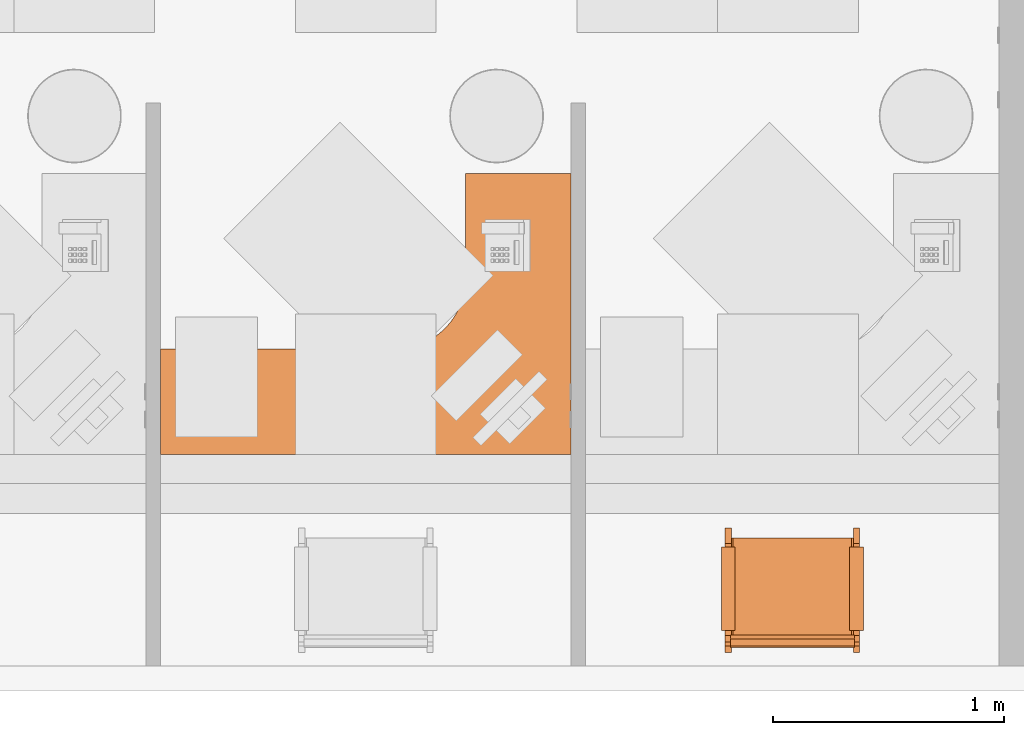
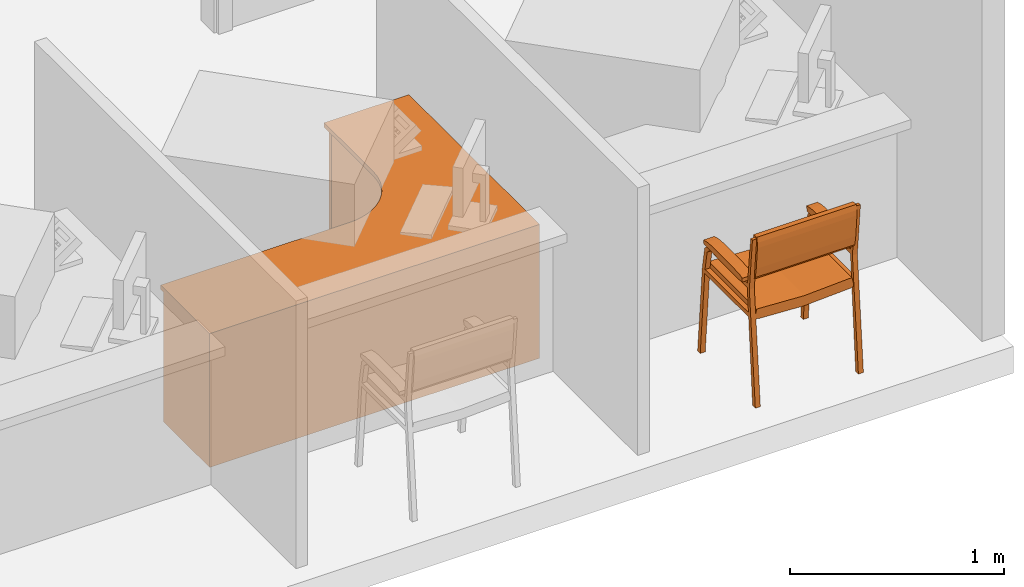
# One storey, part 9 of 20: 2 proxies.
"""IFC2X3 building model written with IfcOpenShell, lengths in feet."""

import ifcopenshell
import ifcopenshell.guid

model = None  # the IFC model being written
_history = None  # IfcOwnerHistory: only IFC2X3 demands one
_inside = {}  # id of a spatial element -> (the spatial element, [elements in it])
_under = {}  # id of a project, library or spatial element -> (it, [spatial elements below it])
_declared = {}  # id of a project -> (the project, [libraries it declares])
_typed = {}  # id of a type object -> (the type object, [elements of that type])
_made_of = {}  # id of a material, layer set ... -> (it, [elements and type objects made of it])


def new_model(schema):
    """Start an empty IFC model of exactly this schema.

    Asked for "IFC4X3", IfcOpenShell would pick the latest addendum, in which some entities
    have other attributes; the version numbers below select the first issue.
    IFC2X3 requires an IfcOwnerHistory on every rooted entity: one is made here for all.
    """
    global model, _history
    if schema == "IFC4X3":
        model = ifcopenshell.file(schema_version=(4, 3, 0, 0))
    else:
        model = ifcopenshell.file(schema=schema)
    _inside.clear()
    _under.clear()
    _declared.clear()
    _typed.clear()
    _made_of.clear()
    _history = None
    if model.schema == "IFC2X3":
        org = make("IfcOrganization", Name="unknown")
        user = make(
            "IfcPersonAndOrganization",
            ThePerson=make("IfcPerson", FamilyName="unknown"),
            TheOrganization=org,
        )
        app = make(
            "IfcApplication",
            ApplicationDeveloper=org,
            Version="unknown",
            ApplicationFullName="unknown",
            ApplicationIdentifier="unknown",
        )
        _history = make(
            "IfcOwnerHistory",
            OwningUser=user,
            OwningApplication=app,
            ChangeAction="ADDED",
            CreationDate=0,
        )
    return model


def make(cls, **values):
    """One entity of the class cls with the attributes given. An attribute that is None is left unset."""
    return model.create_entity(
        cls, **{name: value for name, value in values.items() if value is not None}
    )


def entity(cls, *values):
    """Any entity or typed value of the class cls, its attributes in the order of the schema. None: left unset."""
    e = model.create_entity(cls)
    for i, value in enumerate(values):
        if value is not None:
            e[i] = value
    return e


def rooted(cls, **values):
    """An entity with a GlobalId (a new one), such as an element, a storey or a relation."""
    return make(cls, GlobalId=ifcopenshell.guid.new(), OwnerHistory=_history, **values)


def si_unit(unit_type, name, prefix=None):
    """IfcSIUnit, for example si_unit("LENGTHUNIT", "METRE", prefix="MILLI")."""
    return make("IfcSIUnit", UnitType=unit_type, Prefix=prefix, Name=name)


def converted_unit(unit_type, name, factor, base, dimensions=None, offset=None):
    """IfcConversionBasedUnit, such as the inch: factor (a typed value) times the base unit."""
    return make(
        "IfcConversionBasedUnit"
        if offset is None
        else "IfcConversionBasedUnitWithOffset",
        ConversionOffset=offset,
        Dimensions=None
        if dimensions is None
        else entity("IfcDimensionalExponents", *dimensions),
        UnitType=unit_type,
        Name=name,
        ConversionFactor=make(
            "IfcMeasureWithUnit", ValueComponent=factor, UnitComponent=base
        ),
    )


def derived_unit(unit_type, elements):
    """IfcDerivedUnit: a product of units, each with its exponent."""
    return make(
        "IfcDerivedUnit",
        Elements=[
            make("IfcDerivedUnitElement", Unit=unit, Exponent=power)
            for unit, power in elements
        ],
        UnitType=unit_type,
    )


def assignment(units):
    """IfcUnitAssignment: the units of a project."""
    return None if units is None else make("IfcUnitAssignment", Units=units)


def point(xyz):
    """IfcCartesianPoint."""
    return None if xyz is None else make("IfcCartesianPoint", Coordinates=xyz)


def direction(xyz):
    """IfcDirection."""
    return None if xyz is None else make("IfcDirection", DirectionRatios=xyz)


def frame(location, z_axis=None, x_axis=None):
    """IfcAxis2Placement3D, a coordinate frame: its origin and axes. An axis left out is left unset."""
    return make(
        "IfcAxis2Placement3D",
        Location=point(location),
        Axis=direction(z_axis),
        RefDirection=direction(x_axis),
    )


def frame_2d(location, x_axis=None):
    """IfcAxis2Placement2D, a coordinate frame in the plane: its origin and x axis."""
    return make(
        "IfcAxis2Placement2D", Location=point(location), RefDirection=direction(x_axis)
    )


def origin():
    """The frame at (0, 0, 0) with its axes left unset."""
    return frame((0.0, 0.0, 0.0))


def place(relative_to, where):
    """IfcLocalPlacement: puts the frame where relative to a parent placement (None: the world)."""
    return make(
        "IfcLocalPlacement", PlacementRelTo=relative_to, RelativePlacement=where
    )


def context(
    kind, dimensions, precision=None, world=None, true_north=None, identifier=None
):
    """IfcGeometricRepresentationContext, for example the 3D "Model" context."""
    return make(
        "IfcGeometricRepresentationContext",
        ContextIdentifier=identifier,
        ContextType=kind,
        CoordinateSpaceDimension=dimensions,
        Precision=precision,
        WorldCoordinateSystem=world,
        TrueNorth=true_north,
    )


def subcontext(parent, identifier, kind, view, scale=None):
    """IfcGeometricRepresentationSubContext, for example "Body" below "Model"."""
    return make(
        "IfcGeometricRepresentationSubContext",
        ContextIdentifier=identifier,
        ContextType=kind,
        ParentContext=parent,
        TargetScale=scale,
        TargetView=view,
    )


def project(units=None, contexts=None):
    """IfcProject with its units and contexts."""
    return rooted(
        "IfcProject",
        Name="project",
        RepresentationContexts=contexts,
        UnitsInContext=assignment(units),
    )


def spatial(cls, under=None, at=None, **own):
    """A site, building, storey or space (cls), placed at a placement, below another one or the project."""
    s = rooted(cls, ObjectPlacement=at, **own)
    if under is not None:
        _under.setdefault(under.id(), (under, []))[1].append(s)
    return s


def polyline(points):
    """IfcPolyline through the points."""
    return make("IfcPolyline", Points=[point(p) for p in points])


def circle_curve(where, radius):
    """IfcCircle in the frame where."""
    return make("IfcCircle", Position=where, Radius=radius)


def parameter(value):
    """IfcParameterValue: where a trimmed curve begins or ends, as a parameter of its basis curve."""
    return model.create_entity("IfcParameterValue", value)


def trimmed(basis, trim1, trim2, sense, master):
    """IfcTrimmedCurve: the piece of a basis curve between two trims."""
    return make(
        "IfcTrimmedCurve",
        BasisCurve=basis,
        Trim1=trim1,
        Trim2=trim2,
        SenseAgreement=sense,
        MasterRepresentation=master,
    )


def segment(curve, same_sense, transition):
    """IfcCompositeCurveSegment."""
    return make(
        "IfcCompositeCurveSegment",
        Transition=transition,
        SameSense=same_sense,
        ParentCurve=curve,
    )


def composite_curve(segments, self_intersect=None):
    """IfcCompositeCurve: segments joined end to end."""
    return make("IfcCompositeCurve", Segments=segments, SelfIntersect=self_intersect)


def profile(cls, at=None, kind="AREA", **sizes):
    """A parametric profile (cls). Its sizes go by their IFC names, for example OverallWidth=200.0."""
    return make(cls, ProfileType=kind, Position=at, **sizes)


def rectangle(**sizes):
    """IfcRectangleProfileDef."""
    return profile("IfcRectangleProfileDef", **sizes)


def outline(outer, holes=None, kind="AREA"):
    """IfcArbitraryClosedProfileDef: a profile drawn as a closed curve; with holes, ...WithVoids."""
    if holes is None:
        return make("IfcArbitraryClosedProfileDef", ProfileType=kind, OuterCurve=outer)
    return make(
        "IfcArbitraryProfileDefWithVoids",
        ProfileType=kind,
        OuterCurve=outer,
        InnerCurves=holes,
    )


def extrude(swept, where, along, depth):
    """IfcExtrudedAreaSolid: the profile swept, set in the frame where, extruded along a direction by depth."""
    return make(
        "IfcExtrudedAreaSolid",
        SweptArea=swept,
        Position=where,
        ExtrudedDirection=direction(along),
        Depth=depth,
    )


def shape(context_of_items, identifier, shape_type, items):
    """IfcShapeRepresentation: the items that make up one representation, for example the "Body"."""
    return make(
        "IfcShapeRepresentation",
        ContextOfItems=context_of_items,
        RepresentationIdentifier=identifier,
        RepresentationType=shape_type,
        Items=items,
    )


def source(mapping_origin, context_of_items, identifier, shape_type, items):
    """IfcRepresentationMap: a shape defined once, which mapped items show again and again."""
    return make(
        "IfcRepresentationMap",
        MappingOrigin=mapping_origin,
        MappedRepresentation=shape(context_of_items, identifier, shape_type, items),
    )


def transform(
    local_origin,
    x_axis=None,
    y_axis=None,
    z_axis=None,
    scale=None,
    scale2=None,
    scale3=None,
    uniform=True,
):
    """IfcCartesianTransformationOperator3D, or its non-uniform kind. x_axis, y_axis, z_axis: its Axis1, 2, 3."""
    if uniform:
        return make(
            "IfcCartesianTransformationOperator3D",
            Axis1=direction(x_axis),
            Axis2=direction(y_axis),
            LocalOrigin=point(local_origin),
            Scale=scale,
            Axis3=direction(z_axis),
        )
    return make(
        "IfcCartesianTransformationOperator3DnonUniform",
        Axis1=direction(x_axis),
        Axis2=direction(y_axis),
        LocalOrigin=point(local_origin),
        Scale=scale,
        Axis3=direction(z_axis),
        Scale2=scale2,
        Scale3=scale3,
    )


def mapped(mapping_source, mapping_target):
    """IfcMappedItem: shows the shape of a source again, moved by a transform."""
    return make(
        "IfcMappedItem", MappingSource=mapping_source, MappingTarget=mapping_target
    )


def made_of(thing, what):
    """Note that an element or type object is made of a material, layer set ...; save() writes the relation."""
    if what is not None:
        _made_of.setdefault(what.id(), (what, []))[1].append(thing)
    return thing


def type_object(cls, material=None, **own):
    """A type object (cls), such as IfcWallType, which elements share."""
    return made_of(rooted(cls, **own), material)


def type_shapes(of_type, sources):
    """Give a type object the sources (RepresentationMaps) that its elements show as mapped items."""
    of_type.RepresentationMaps = sources


def element(
    cls,
    number,
    at=None,
    inside=None,
    cuts=None,
    type_object=None,
    material=None,
    context=None,
    identifier="Body",
    shape_type=None,
    held_by="IfcProductDefinitionShape",
    body=None,
    shapes=None,
    **own,
):
    """One element of the class cls, such as IfcWall. Its Tag is "e" and its number.

    at: its placement. inside: the storey or other place that contains it. cuts: it is an
    opening in that element (IfcRelVoidsElement). A single representation is given by context,
    identifier, shape_type and body (its items); several are given by shapes. held_by: the class
    of the entity that holds the representations. save() writes the other relations.
    """
    e = rooted(cls, Tag="e%d" % number, ObjectPlacement=at, **own)
    if body is not None:
        shapes = [shape(context, identifier, shape_type, body)]
    if shapes is not None:
        e.Representation = make(held_by, Representations=shapes)
    if inside is not None:
        _inside.setdefault(inside.id(), (inside, []))[1].append(e)
    if cuts is not None:
        rooted(
            "IfcRelVoidsElement", RelatingBuildingElement=cuts, RelatedOpeningElement=e
        )
    if type_object is not None:
        _typed.setdefault(type_object.id(), (type_object, []))[1].append(e)
    return made_of(e, material)


def aggregate(whole, parts):
    """IfcRelAggregates: a whole, such as a stair, and the parts it consists of."""
    return rooted("IfcRelAggregates", RelatingObject=whole, RelatedObjects=parts)


def save(model, path):
    """Write the relations noted so far, then the file.

    IfcRelAggregates (storeys below a building ...), IfcRelContainedInSpatialStructure (elements
    in a storey), IfcRelDefinesByType, IfcRelAssociatesMaterial and IfcRelDeclares: one each for
    every whole, place, type object, material and project.
    """
    for whole, parts in _under.values():
        aggregate(whole, parts)
    for where, things in _inside.values():
        rooted(
            "IfcRelContainedInSpatialStructure",
            RelatedElements=things,
            RelatingStructure=where,
        )
    for kind, things in _typed.values():
        rooted("IfcRelDefinesByType", RelatedObjects=things, RelatingType=kind)
    for what, things in _made_of.values():
        rooted("IfcRelAssociatesMaterial", RelatedObjects=things, RelatingMaterial=what)
    for by, libraries in _declared.values():
        rooted("IfcRelDeclares", RelatingContext=by, RelatedDefinitions=libraries)
    model.write(path)


model = new_model("IFC2X3")

# Units and contexts
model_context = context("Model", 3, precision=0.0001, world=origin(), true_north=direction((6.12303176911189e-17, 1.0)))
body_context = subcontext(model_context, "Body", "Model", "MODEL_VIEW")
ifc_project = project(units=[converted_unit("LENGTHUNIT", "FOOT", entity("IfcRatioMeasure", 0.3048), si_unit("LENGTHUNIT", "METRE"), dimensions=[1, 0, 0, 0, 0, 0, 0]), converted_unit("AREAUNIT", "SQUARE FOOT", entity("IfcRatioMeasure", 0.09290304), si_unit("AREAUNIT", "SQUARE_METRE"), dimensions=[2, 0, 0, 0, 0, 0, 0]), converted_unit("VOLUMEUNIT", "CUBIC FOOT", entity("IfcRatioMeasure", 0.028316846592), si_unit("VOLUMEUNIT", "CUBIC_METRE"), dimensions=[3, 0, 0, 0, 0, 0, 0]), converted_unit("PLANEANGLEUNIT", "DEGREE", entity("IfcRatioMeasure", 0.0174532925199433), si_unit("PLANEANGLEUNIT", "RADIAN"), dimensions=[0, 0, 0, 0, 0, 0, 0]), si_unit("MASSUNIT", "GRAM", prefix="KILO"), derived_unit("MASSDENSITYUNIT", [(si_unit("MASSUNIT", "GRAM", prefix="KILO"), 1), (si_unit("LENGTHUNIT", "METRE"), -3)]), si_unit("TIMEUNIT", "SECOND"), si_unit("FREQUENCYUNIT", "HERTZ"), si_unit("THERMODYNAMICTEMPERATUREUNIT", "DEGREE_CELSIUS"), derived_unit("THERMALTRANSMITTANCEUNIT", [(si_unit("MASSUNIT", "GRAM", prefix="KILO"), 1), (si_unit("THERMODYNAMICTEMPERATUREUNIT", "KELVIN"), -1), (si_unit("TIMEUNIT", "SECOND"), -3)]), derived_unit("VOLUMETRICFLOWRATEUNIT", [(si_unit("LENGTHUNIT", "METRE"), 3), (si_unit("TIMEUNIT", "SECOND"), -1)]), si_unit("ELECTRICCURRENTUNIT", "AMPERE"), si_unit("ELECTRICVOLTAGEUNIT", "VOLT"), si_unit("POWERUNIT", "WATT"), si_unit("FORCEUNIT", "NEWTON"), si_unit("ILLUMINANCEUNIT", "LUX"), si_unit("LUMINOUSFLUXUNIT", "LUMEN"), si_unit("LUMINOUSINTENSITYUNIT", "CANDELA"), derived_unit("USERDEFINED", [(si_unit("MASSUNIT", "GRAM", prefix="KILO"), -1), (si_unit("LENGTHUNIT", "METRE"), -2), (si_unit("TIMEUNIT", "SECOND"), 3), (si_unit("LUMINOUSFLUXUNIT", "LUMEN"), 1)]), derived_unit("LINEARVELOCITYUNIT", [(si_unit("LENGTHUNIT", "METRE"), 1), (si_unit("TIMEUNIT", "SECOND"), -1)]), si_unit("PRESSUREUNIT", "PASCAL"), derived_unit("USERDEFINED", [(si_unit("LENGTHUNIT", "METRE"), -2), (si_unit("MASSUNIT", "GRAM", prefix="KILO"), 1), (si_unit("TIMEUNIT", "SECOND"), -2)])], contexts=[model_context])

# Site, building, storey, space
site_placement = place(None, origin())
site = spatial("IfcSite", under=ifc_project, at=site_placement, Name="Default", CompositionType="ELEMENT")
building_placement = place(site_placement, origin())
building = spatial("IfcBuilding", under=site, at=building_placement, Name="OUTPATIENT / PACT CLINIC (Ch. 265)", CompositionType="ELEMENT")
storey_placement = place(building_placement, origin())
storey = spatial("IfcBuildingStorey", under=building, at=storey_placement, Name="DATUM", CompositionType="ELEMENT", Elevation=0.0)
space_placement = place(storey_placement, origin())
space = spatial("IfcSpace", under=storey, at=space_placement, Name="RCP03", CompositionType="ELEMENT", InteriorOrExteriorSpace="INTERNAL")

# Proxies
building_element_proxy_type_1 = type_object("IfcBuildingElementProxyType", Name="E0130 - Workstation, Documentation, Operating, L-Shaped, 5-10", PredefinedType="NOTDEFINED")
shared_shape_1 = source(origin(), body_context, "Body", "SweptSolid", [
    extrude(rectangle(XDim=0.0292050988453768, YDim=0.833333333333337, at=frame_2d((5.55111512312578e-17, 0.0), x_axis=(1.0, 0.0))), frame((2.75, 0.621546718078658, 0.250000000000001), z_axis=(0.0, 0.0, 1.0), x_axis=(0.0, 1.0, 0.0)), (0.0, 0.0, 1.0), 1.83333333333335),
    extrude(outline(polyline([(-1.20833333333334, -0.583333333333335), (1.20833333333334, -0.583333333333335), (1.20833333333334, 0.583333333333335), (-1.20833333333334, 0.583333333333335), (-1.20833333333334, -0.583333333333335)]), holes=[polyline([(-0.875000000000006, -0.416666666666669), (-0.875000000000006, 0.416666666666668), (0.958333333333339, 0.416666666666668), (0.958333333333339, -0.416666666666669), (-0.875000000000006, -0.416666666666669)])]), frame((2.74999999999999, 0.583333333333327, 1.20833333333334), z_axis=(0.0, 1.0, 0.0), x_axis=(0.0, 0.0, -1.0)), (0.0, 0.0, 1.0), 0.0833333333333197),
    extrude(outline(polyline([(-0.305555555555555, 0.361111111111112), (0.694444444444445, 0.361111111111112), (0.694444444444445, 0.444444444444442), (-0.388888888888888, 0.444444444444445), (-0.388888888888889, -0.805555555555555), (-0.305555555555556, -0.805555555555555), (-0.305555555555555, 0.361111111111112)])), frame((2.55555555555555, 1.4722222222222, 0.0)), (0.0, 0.0, 1.0), 2.41666666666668),
    extrude(outline(polyline([(-1.86666666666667, -2.61666666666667), (2.13333333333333, -2.61666666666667), (2.13333333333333, -1.2), (2.05, -1.2), (2.05, -2.53333333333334), (-1.78333333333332, -2.53333333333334), (-1.78333333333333, 3.13333333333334), (-0.533333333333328, 3.13333333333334), (-0.533333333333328, 3.21666666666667), (-1.86666666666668, 3.21666666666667), (-1.86666666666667, -2.61666666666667)])), frame((0.116666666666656, 0.133333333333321, 0.0), z_axis=(0.0, 0.0, 1.0), x_axis=(0.0, -1.0, 0.0)), (0.0, 0.0, 1.0), 2.41666666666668),
    extrude(outline(composite_curve([segment(polyline([(-3.38095238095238, -1.92857142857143), (2.45238095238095, -1.92857142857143)]), True, "CONTINUOUS"), segment(polyline([(2.45238095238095, -1.92857142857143), (2.45238095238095, 2.07142857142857)]), True, "CONTINUOUS"), segment(polyline([(2.45238095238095, 2.07142857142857), (0.952380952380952, 2.07142857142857)]), True, "CONTINUOUS"), segment(polyline([(0.952380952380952, 2.07142857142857), (0.952380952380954, 0.571428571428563)]), True, "CONTINUOUS"), segment(trimmed(circle_curve(frame_2d((-0.0476190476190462, 0.571428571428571), x_axis=(-1.0, 0.0)), 1.0), [parameter(90.0)], [parameter(180.0)], True, "PARAMETER"), False, "CONTINUOUS"), segment(polyline([(-0.0476190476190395, -0.428571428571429), (-3.38095238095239, -0.428571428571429)]), True, "CONTINUOUS"), segment(polyline([(-3.38095238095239, -0.428571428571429), (-3.38095238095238, -1.92857142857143)]), True, "CONTINUOUS")], self_intersect=False)), frame((-0.0476190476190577, 0.0714285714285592, 2.41666666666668), z_axis=(0.0, 0.0, 1.0), x_axis=(-1.0, 0.0, 0.0)), (0.0, 0.0, 1.0), 0.0833333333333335),
    extrude(rectangle(XDim=1.0, YDim=1.0, at=frame_2d((5.55111512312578e-17, 0.1), x_axis=(1.0, 0.0))), frame((-0.0999999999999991, 0.0, 0.0), z_axis=(0.0, 0.0, 1.0), x_axis=(0.0, -1.0, 0.0)), (0.0, 0.0, 1.0), 1.0),
])
type_shapes(building_element_proxy_type_1, [shared_shape_1])
proxy_1_placement = place(space_placement, frame((65.6807800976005, -862.924839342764, 0.0), z_axis=(0.0, 0.0, 1.0), x_axis=(-1.0, 0.0, 0.0)))
element("IfcBuildingElementProxy", 1, at=proxy_1_placement, inside=space, type_object=building_element_proxy_type_1, Name="E0130 - Workstation, Documentation, Operating, L-Shaped, 5-10:E0130 - Workstation, Documentation, Operating, L-Shaped, 5-10", ObjectType="E0130 - Workstation, Documentation, Operating, L-Shaped, 5-10", context=body_context, shape_type="MappedRepresentation", body=[
    mapped(shared_shape_1, transform((0.0, 0.0, 0.0), scale=1.0)),
])
building_element_proxy_type_2 = type_object("IfcBuildingElementProxyType", Name="F0205 - Chair, Side With Arms", PredefinedType="NOTDEFINED")
shared_shape_2 = source(origin(), body_context, "Body", "SweptSolid", [
    extrude(outline(polyline([(-0.104007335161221, -0.374369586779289), (-0.027711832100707, -0.374369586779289), (-0.0197350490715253, -0.338348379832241), (0.00592434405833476, -0.182113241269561), (0.0162560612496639, -0.135457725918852), (0.0457826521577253, -0.00212284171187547), (0.0856087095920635, 0.177721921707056), (0.112798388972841, 0.276572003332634), (0.120257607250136, 0.307674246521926), (0.129202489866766, 0.415216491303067), (0.045581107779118, 0.433734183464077), (0.0167028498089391, 0.395704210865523), (-0.0364083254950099, 0.222671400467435), (-0.125070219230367, -0.177704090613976), (-0.13682888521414, -0.27538652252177), (-0.128352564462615, -0.36942248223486), (-0.104007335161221, -0.374369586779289)])), frame((-0.891159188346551, -0.878769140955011, 2.73061112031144), z_axis=(0.0, 1.0, 0.0), x_axis=(0.991475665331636, 0.0, -0.130291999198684)), (0.0, 0.0, 1.0), 1.75919993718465),
    extrude(outline(polyline([(0.0907668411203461, -0.842703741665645), (0.261538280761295, -0.842703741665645), (0.265730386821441, -0.773999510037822), (0.127479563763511, 0.0287496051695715), (-0.0923338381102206, 0.813085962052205), (-0.125373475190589, 0.873420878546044), (-0.279635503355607, 0.800086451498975), (-0.270660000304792, 0.752608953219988), (-0.0560029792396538, -0.0126173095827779), (0.0784907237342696, -0.795927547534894), (0.0907668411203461, -0.842703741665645)])), frame((-0.90556950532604, 0.000822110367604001, 1.62079321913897), z_axis=(1.0, 0.0, 0.0), x_axis=(0.0, -0.219936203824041, -0.975514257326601)), (0.0, 0.0, 1.0), 1.47211210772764),
    extrude(outline(polyline([(-0.552031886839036, -0.234422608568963), (-0.484734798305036, -0.234422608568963), (-0.233837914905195, -0.160903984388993), (0.324339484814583, 0.0422559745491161), (0.453697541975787, 0.101150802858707), (0.564536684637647, 0.176717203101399), (0.51204038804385, 0.250193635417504), (0.420212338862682, 0.216770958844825), (0.254858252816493, 0.145732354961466), (-0.246233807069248, -0.0366502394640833), (-0.436544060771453, -0.0986810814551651), (-0.576302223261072, -0.167740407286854), (-0.552031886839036, -0.234422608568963)])), frame((-0.1510824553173, -1.00916916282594, 2.22827697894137), z_axis=(0.0, 1.0, 0.0), x_axis=(0.939692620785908, 0.0, 0.34202014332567)), (0.0, 0.0, 1.0), 0.198199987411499),
    extrude(outline(polyline([(-0.525375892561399, -0.221085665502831), (-0.458078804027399, -0.221085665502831), (-0.207181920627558, -0.147567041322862), (0.350995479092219, 0.0555929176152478), (0.480353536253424, 0.114487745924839), (0.591192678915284, 0.190054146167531), (0.551062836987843, 0.246221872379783), (0.114629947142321, 0.0873732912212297), (0.281514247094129, 0.159069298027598), (-0.219577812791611, -0.0233132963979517), (-0.409888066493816, -0.0853441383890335), (-0.549646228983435, -0.154403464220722), (-0.525375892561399, -0.221085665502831)])), frame((-0.180692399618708, 0.814330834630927, 2.23169271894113), z_axis=(0.0, 1.0, 0.0), x_axis=(0.939692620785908, 0.0, 0.34202014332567)), (0.0, 0.0, 1.0), 0.196499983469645),
    extrude(outline(polyline([(0.0166377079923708, -0.666422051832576), (0.099971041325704, -0.666422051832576), (-0.0172324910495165, 0.673220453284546), (-0.0993762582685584, 0.659623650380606), (0.0166377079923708, -0.666422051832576)])), frame((-0.182442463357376, -0.954369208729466, 1.61480726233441), z_axis=(0.0, 1.0, 0.0), x_axis=(0.0871557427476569, 0.0, -0.996194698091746)), (0.0, 0.0, 1.0), 0.0833333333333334),
    extrude(outline(polyline([(0.0166377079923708, -0.666422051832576), (0.099971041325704, -0.666422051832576), (-0.0172324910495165, 0.673220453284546), (-0.0993762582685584, 0.659623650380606), (0.0166377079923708, -0.666422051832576)])), frame((-0.182442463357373, 0.867430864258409, 1.61480726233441), z_axis=(0.0, 1.0, 0.0), x_axis=(0.0871557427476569, 0.0, -0.996194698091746)), (0.0, 0.0, 1.0), 0.0833333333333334),
    extrude(outline(polyline([(0.811855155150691, -1.61770011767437), (0.895188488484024, -1.61770011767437), (0.71143329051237, 0.489199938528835), (0.806416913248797, 1.46713632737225), (0.751033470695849, 1.46713632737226), (0.656855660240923, 0.571094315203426), (-0.516612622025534, 0.571094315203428), (-0.653571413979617, 0.441277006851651), (-0.728375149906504, 0.0391907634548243), (-0.871611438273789, -1.61770011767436), (-0.791571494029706, -1.61770011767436), (-0.646611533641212, 0.0391998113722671), (-0.578172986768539, 0.407071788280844), (-0.496044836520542, 0.48919993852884), (0.649788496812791, 0.489199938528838), (0.811855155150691, -1.61770011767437)])), frame((-0.163768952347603, -0.954369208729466, 1.61770011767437), z_axis=(0.0, 1.0, 0.0), x_axis=(-1.0, 0.0, 0.0)), (0.0, 0.0, 1.0), 0.0885709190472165),
    extrude(outline(polyline([(0.811855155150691, -1.61770011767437), (0.895188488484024, -1.61770011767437), (0.71143329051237, 0.489199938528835), (0.806416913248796, 1.46713632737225), (0.751033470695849, 1.46713632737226), (0.656855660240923, 0.571094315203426), (-0.516612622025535, 0.571094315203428), (-0.653571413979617, 0.441277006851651), (-0.728375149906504, 0.0391907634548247), (-0.871611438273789, -1.61770011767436), (-0.791571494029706, -1.61770011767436), (-0.646611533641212, 0.0391998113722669), (-0.578172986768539, 0.407071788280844), (-0.496044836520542, 0.48919993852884), (0.649788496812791, 0.489199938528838), (0.811855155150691, -1.61770011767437)])), frame((-0.1637689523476, 0.867430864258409, 1.61770011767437), z_axis=(0.0, 1.0, 0.0), x_axis=(-1.0, 0.0, 0.0)), (0.0, 0.0, 1.0), 0.0885709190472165),
])
type_shapes(building_element_proxy_type_2, [shared_shape_2])
proxy_2_placement = place(space_placement, frame((71.3274442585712, -866.674839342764, 0.0), z_axis=(0.0, 0.0, 1.0), x_axis=(0.0, 1.0, 0.0)))
element("IfcBuildingElementProxy", 2, at=proxy_2_placement, inside=space, type_object=building_element_proxy_type_2, Name="F0205 - Chair, Side With Arms:F0205 - Chair, Side With Arms", ObjectType="F0205 - Chair, Side With Arms", context=body_context, shape_type="MappedRepresentation", body=[
    mapped(shared_shape_2, transform((0.0, 0.0, 0.0), scale=1.0)),
])

save(model, "model.ifc")
